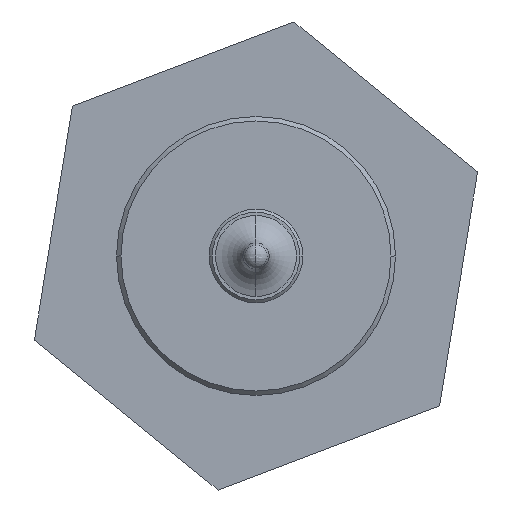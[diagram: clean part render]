
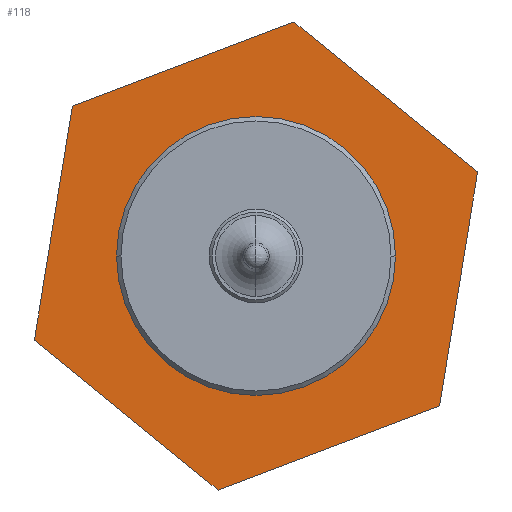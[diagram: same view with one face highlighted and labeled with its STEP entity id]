
A CAD part, left-side view. The second image highlights one B-rep face of the part: STEP entity #118.
In plain terms, the highlighted planar face has unit normal (-1, 0, 0).
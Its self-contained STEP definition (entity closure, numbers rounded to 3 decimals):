
#118=ADVANCED_FACE('',(#261,#262),#263,.F.);
#261=FACE_OUTER_BOUND('',#479,.T.);
#262=FACE_BOUND('',#480,.T.);
#263=PLANE('',#481);
#479=EDGE_LOOP('',(#911,#912,#913,#914,#915,#916));
#480=EDGE_LOOP('',(#917,#918));
#481=AXIS2_PLACEMENT_3D('',#919,#920,#921);
#911=ORIENTED_EDGE('',*,*,#1473,.T.);
#912=ORIENTED_EDGE('',*,*,#1474,.T.);
#913=ORIENTED_EDGE('',*,*,#1475,.T.);
#914=ORIENTED_EDGE('',*,*,#1476,.T.);
#915=ORIENTED_EDGE('',*,*,#1477,.T.);
#916=ORIENTED_EDGE('',*,*,#1478,.T.);
#917=ORIENTED_EDGE('',*,*,#1479,.F.);
#918=ORIENTED_EDGE('',*,*,#1357,.F.);
#919=CARTESIAN_POINT('',(34.9,0.,0.));
#920=DIRECTION('',(1.0,0.0,0.0));
#921=DIRECTION('',(0.0,1.0,0.0));
#1357=EDGE_CURVE('',#1615,#1617,#1618,.T.);
#1473=EDGE_CURVE('',#1825,#1826,#1827,.T.);
#1474=EDGE_CURVE('',#1826,#1828,#1829,.T.);
#1475=EDGE_CURVE('',#1828,#1830,#1831,.T.);
#1476=EDGE_CURVE('',#1830,#1832,#1833,.T.);
#1477=EDGE_CURVE('',#1832,#1834,#1835,.T.);
#1478=EDGE_CURVE('',#1834,#1825,#1836,.T.);
#1479=EDGE_CURVE('',#1617,#1615,#1837,.T.);
#1615=VERTEX_POINT('',#1971);
#1617=VERTEX_POINT('',#1974);
#1618=CIRCLE('',#1975,9.475);
#1825=VERTEX_POINT('',#2269);
#1826=VERTEX_POINT('',#2270);
#1827=LINE('',#2271,#2272);
#1828=VERTEX_POINT('',#2273);
#1829=LINE('',#2274,#2275);
#1830=VERTEX_POINT('',#2276);
#1831=LINE('',#2277,#2278);
#1832=VERTEX_POINT('',#2279);
#1833=LINE('',#2280,#2281);
#1834=VERTEX_POINT('',#2282);
#1835=LINE('',#2283,#2284);
#1836=LINE('',#2285,#2286);
#1837=CIRCLE('',#2287,9.475);
#1971=CARTESIAN_POINT('',(34.9,-9.475,0.));
#1974=CARTESIAN_POINT('',(34.9,9.475,0.));
#1975=AXIS2_PLACEMENT_3D('',#2459,#2460,#2461);
#2269=CARTESIAN_POINT('',(34.9,-15.06,5.715));
#2270=CARTESIAN_POINT('',(34.9,-2.581,15.9));
#2271=CARTESIAN_POINT('',(34.9,-15.06,5.715));
#2272=VECTOR('',#2678,16.108);
#2273=CARTESIAN_POINT('',(34.9,12.479,10.185));
#2274=CARTESIAN_POINT('',(34.9,-2.581,15.9));
#2275=VECTOR('',#2679,16.108);
#2276=CARTESIAN_POINT('',(34.9,15.06,-5.715));
#2277=CARTESIAN_POINT('',(34.9,12.479,10.185));
#2278=VECTOR('',#2680,16.108);
#2279=CARTESIAN_POINT('',(34.9,2.581,-15.9));
#2280=CARTESIAN_POINT('',(34.9,15.06,-5.715));
#2281=VECTOR('',#2681,16.108);
#2282=CARTESIAN_POINT('',(34.9,-12.479,-10.185));
#2283=CARTESIAN_POINT('',(34.9,2.581,-15.9));
#2284=VECTOR('',#2682,16.108);
#2285=CARTESIAN_POINT('',(34.9,-12.479,-10.185));
#2286=VECTOR('',#2683,16.108);
#2287=AXIS2_PLACEMENT_3D('',#2684,#2685,#2686);
#2459=CARTESIAN_POINT('',(34.9,0.,0.0));
#2460=DIRECTION('',(-1.0,0.0,0.0));
#2461=DIRECTION('',(0.0,-1.0,0.0));
#2678=DIRECTION('',(0.0,0.775,0.632));
#2679=DIRECTION('',(0.0,0.935,-0.355));
#2680=DIRECTION('',(0.0,0.16,-0.987));
#2681=DIRECTION('',(0.0,-0.775,-0.632));
#2682=DIRECTION('',(0.0,-0.935,0.355));
#2683=DIRECTION('',(0.0,-0.16,0.987));
#2684=CARTESIAN_POINT('',(34.9,0.,0.0));
#2685=DIRECTION('',(-1.0,0.0,0.0));
#2686=DIRECTION('',(0.0,-1.0,0.0));
